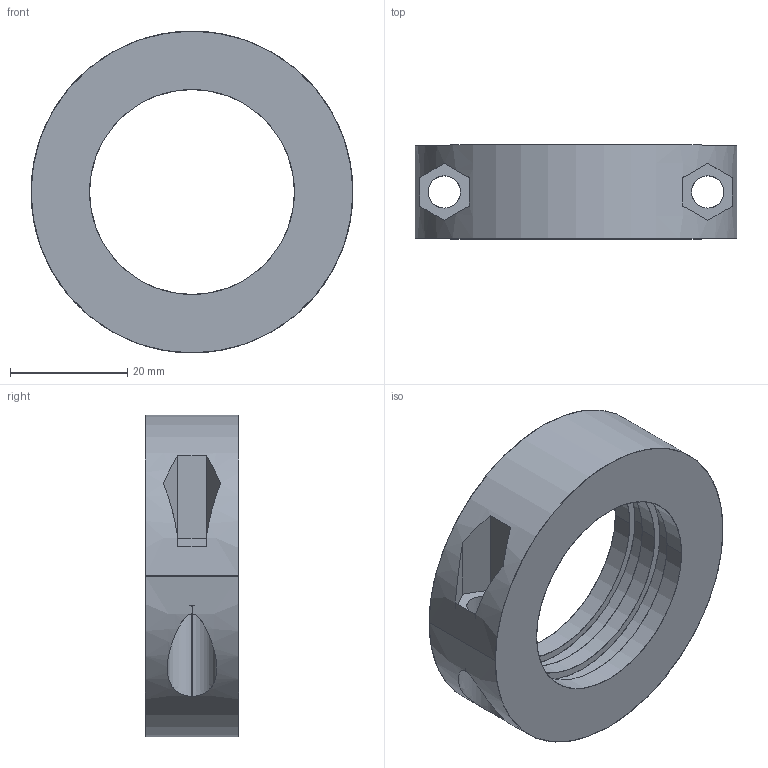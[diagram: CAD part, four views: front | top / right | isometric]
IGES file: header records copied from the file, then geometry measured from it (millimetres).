
Start section: SolidWorks IGES file using analytic representation for surfaces
Global section: file name: C:\Documents and Settings\ARGE\Desktop\yeni katalog tolgay düzenli\B kataloðu\AYRIK TASMALAR YUVARLAK TÝPÝ\export\800 235 353.IGS; native system: SolidWorks 2006 by SolidWorks Corporation; preprocessor: SolidWorks 2006 by SolidWorks Corporation; author: ARGE2; date: 060911.143745; units: millimetre
Bounding box: 55 x 16 x 55 mm (x, y, z)
Surface area: 9083.5 mm2 (no closed solid volume)
Topology: 0 solids, 0 shells, 42 faces, 1273 edges, 1273 vertices
Faces by surface type: bspline 22, revolution 20
